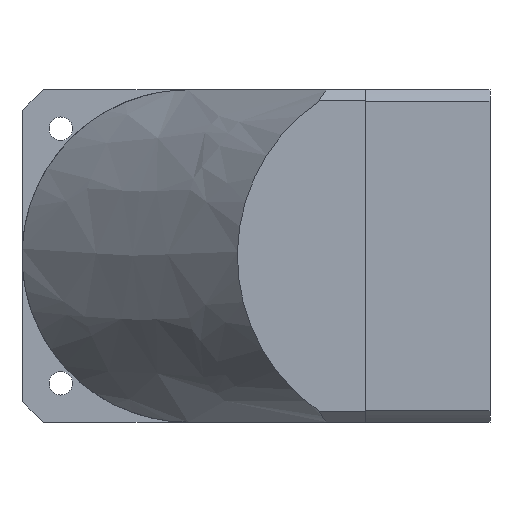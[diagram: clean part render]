
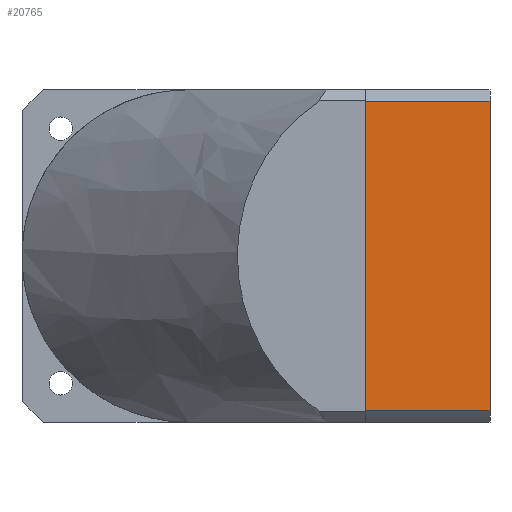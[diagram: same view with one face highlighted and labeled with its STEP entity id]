
A CAD part, front view. The second image highlights one B-rep face of the part: STEP entity #20765.
In plain terms, the highlighted planar face has unit normal (0, -1, 0).
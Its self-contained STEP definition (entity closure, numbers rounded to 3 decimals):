
#1677 = EDGE_CURVE ( 'NONE', #27599, #11824, #24361, .T. ) ;
#5243 = VERTEX_POINT ( 'NONE', #8992 ) ;
#5523 = EDGE_LOOP ( 'NONE', ( #19681, #13080, #26633, #32395 ) ) ;
#6171 = CARTESIAN_POINT ( 'NONE',  ( 0., -60., 0. ) ) ;
#7807 = EDGE_CURVE ( 'NONE', #27599, #5243, #19491, .T. ) ;
#8212 = EDGE_CURVE ( 'NONE', #30692, #5243, #30424, .T. ) ;
#8661 = CARTESIAN_POINT ( 'NONE',  ( -60., -60., -45. ) ) ;
#8992 = CARTESIAN_POINT ( 'NONE',  ( -55.893, -60., 0. ) ) ;
#10238 = FACE_OUTER_BOUND ( 'NONE', #5523, .T. ) ;
#10244 = AXIS2_PLACEMENT_3D ( 'NONE', #8661, #11305, #29471 ) ;
#11305 = DIRECTION ( 'NONE',  ( 0., -1., 0. ) ) ;
#11824 = VERTEX_POINT ( 'NONE', #27959 ) ;
#13002 = CARTESIAN_POINT ( 'NONE',  ( -60., -60., -45. ) ) ;
#13080 = ORIENTED_EDGE ( 'NONE', *, *, #8212, .T. ) ;
#14272 = DIRECTION ( 'NONE',  ( 0., 0., 1. ) ) ;
#15627 = DIRECTION ( 'NONE',  ( 1., 0., 0. ) ) ;
#17461 = VECTOR ( 'NONE', #15627, 1000. ) ;
#18604 = DIRECTION ( 'NONE',  ( 0., 0., 1. ) ) ;
#19491 = LINE ( 'NONE', #27191, #27204 ) ;
#19681 = ORIENTED_EDGE ( 'NONE', *, *, #31672, .T. ) ;
#20765 = ADVANCED_FACE ( 'NONE', ( #10238 ), #24248, .T. ) ;
#24248 = PLANE ( 'NONE',  #10244 ) ;
#24361 = LINE ( 'NONE', #13002, #17461 ) ;
#26428 = CARTESIAN_POINT ( 'NONE',  ( 55.893, -60., -45. ) ) ;
#26633 = ORIENTED_EDGE ( 'NONE', *, *, #7807, .F. ) ;
#26733 = CARTESIAN_POINT ( 'NONE',  ( -55.893, -60., -45. ) ) ;
#27052 = LINE ( 'NONE', #26428, #32324 ) ;
#27191 = CARTESIAN_POINT ( 'NONE',  ( -55.893, -60., 0. ) ) ;
#27204 = VECTOR ( 'NONE', #14272, 1000. ) ;
#27599 = VERTEX_POINT ( 'NONE', #26733 ) ;
#27959 = CARTESIAN_POINT ( 'NONE',  ( 55.893, -60., -45. ) ) ;
#29471 = DIRECTION ( 'NONE',  ( 0., 0., -1. ) ) ;
#29610 = DIRECTION ( 'NONE',  ( -1., 0., 0. ) ) ;
#30424 = LINE ( 'NONE', #6171, #31228 ) ;
#30600 = CARTESIAN_POINT ( 'NONE',  ( 55.893, -60., 0. ) ) ;
#30692 = VERTEX_POINT ( 'NONE', #30600 ) ;
#31228 = VECTOR ( 'NONE', #29610, 1000. ) ;
#31672 = EDGE_CURVE ( 'NONE', #11824, #30692, #27052, .T. ) ;
#32324 = VECTOR ( 'NONE', #18604, 1000. ) ;
#32395 = ORIENTED_EDGE ( 'NONE', *, *, #1677, .T. ) ;
